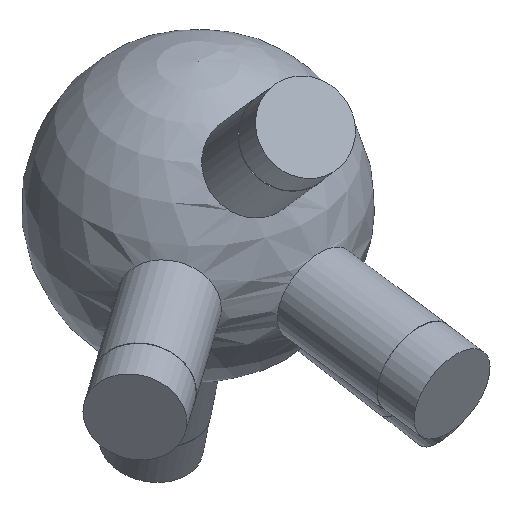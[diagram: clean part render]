
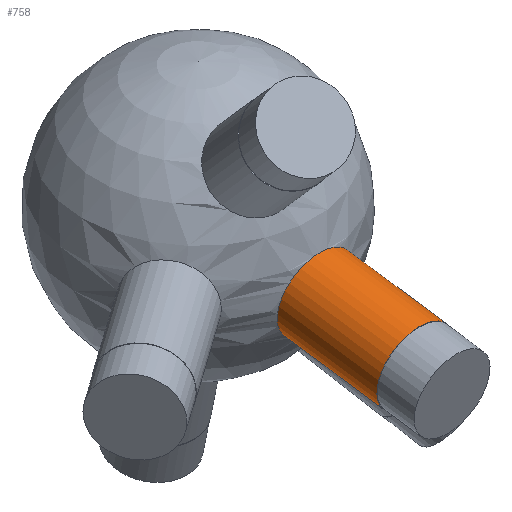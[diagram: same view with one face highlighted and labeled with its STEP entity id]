
A CAD part, isometric view. The second image highlights one B-rep face of the part: STEP entity #758.
In plain terms, the highlighted cylindrical face has radius 6 mm (diameter 12 mm), a full revolution.
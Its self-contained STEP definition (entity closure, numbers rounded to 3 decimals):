
#33 = SPHERICAL_SURFACE('',#34,20.);
#34 = AXIS2_PLACEMENT_3D('',#35,#36,#37);
#35 = CARTESIAN_POINT('',(0.,0.,0.));
#36 = DIRECTION('',(0.,0.,1.));
#37 = DIRECTION('',(1.,0.,-0.));
#402 = EDGE_CURVE('',#403,#403,#405,.T.);
#403 = VERTEX_POINT('',#404);
#404 = CARTESIAN_POINT('',(-0.208,-18.152,
    -8.395));
#405 = SURFACE_CURVE('',#406,(#411,#473),.PCURVE_S1.);
#406 = CIRCLE('',#407,6.);
#407 = AXIS2_PLACEMENT_3D('',#408,#409,#410);
#408 = CARTESIAN_POINT('',(-0.208,-18.92,
    -2.444));
#409 = DIRECTION('',(-0.011,-0.992,-0.128
    ));
#410 = DIRECTION('',(0.,0.128,-0.992)
  );
#411 = PCURVE('',#33,#412);
#412 = DEFINITIONAL_REPRESENTATION('',(#413),#472);
#413 = B_SPLINE_CURVE_WITH_KNOTS('',8,(#414,#415,#416,#417,#418,#419,
    #420,#421,#422,#423,#424,#425,#426,#427,#428,#429,#430,#431,#432,
    #433,#434,#435,#436,#437,#438,#439,#440,#441,#442,#443,#444,#445,
    #446,#447,#448,#449,#450,#451,#452,#453,#454,#455,#456,#457,#458,
    #459,#460,#461,#462,#463,#464,#465,#466,#467,#468,#469,#470,#471),
  .UNSPECIFIED.,.F.,.F.,(9,7,7,7,7,7,7,7,9),(0.,0.785,
    1.473,2.675,3.577,4.254,
    5.268,5.776,6.283),.UNSPECIFIED.);
#414 = CARTESIAN_POINT('',(4.701,-0.433));
#415 = CARTESIAN_POINT('',(4.733,-0.433));
#416 = CARTESIAN_POINT('',(4.766,-0.43));
#417 = CARTESIAN_POINT('',(4.798,-0.422));
#418 = CARTESIAN_POINT('',(4.828,-0.412));
#419 = CARTESIAN_POINT('',(4.857,-0.398));
#420 = CARTESIAN_POINT('',(4.883,-0.381));
#421 = CARTESIAN_POINT('',(4.907,-0.361));
#422 = CARTESIAN_POINT('',(4.946,-0.32));
#423 = CARTESIAN_POINT('',(4.962,-0.299));
#424 = CARTESIAN_POINT('',(4.976,-0.277));
#425 = CARTESIAN_POINT('',(4.988,-0.253));
#426 = CARTESIAN_POINT('',(4.996,-0.229));
#427 = CARTESIAN_POINT('',(5.003,-0.204));
#428 = CARTESIAN_POINT('',(5.007,-0.178));
#429 = CARTESIAN_POINT('',(5.011,-0.107));
#430 = CARTESIAN_POINT('',(5.006,-0.062));
#431 = CARTESIAN_POINT('',(4.994,-0.017));
#432 = CARTESIAN_POINT('',(4.974,0.025));
#433 = CARTESIAN_POINT('',(4.948,0.063));
#434 = CARTESIAN_POINT('',(4.916,0.096));
#435 = CARTESIAN_POINT('',(4.879,0.123));
#436 = CARTESIAN_POINT('',(4.808,0.159));
#437 = CARTESIAN_POINT('',(4.775,0.171));
#438 = CARTESIAN_POINT('',(4.741,0.178));
#439 = CARTESIAN_POINT('',(4.707,0.181));
#440 = CARTESIAN_POINT('',(4.672,0.179));
#441 = CARTESIAN_POINT('',(4.637,0.173));
#442 = CARTESIAN_POINT('',(4.604,0.163));
#443 = CARTESIAN_POINT('',(4.55,0.138));
#444 = CARTESIAN_POINT('',(4.528,0.125));
#445 = CARTESIAN_POINT('',(4.507,0.11));
#446 = CARTESIAN_POINT('',(4.488,0.093));
#447 = CARTESIAN_POINT('',(4.47,0.074));
#448 = CARTESIAN_POINT('',(4.455,0.054));
#449 = CARTESIAN_POINT('',(4.441,0.032));
#450 = CARTESIAN_POINT('',(4.412,-0.024));
#451 = CARTESIAN_POINT('',(4.399,-0.06));
#452 = CARTESIAN_POINT('',(4.391,-0.098));
#453 = CARTESIAN_POINT('',(4.389,-0.137));
#454 = CARTESIAN_POINT('',(4.392,-0.175));
#455 = CARTESIAN_POINT('',(4.4,-0.213));
#456 = CARTESIAN_POINT('',(4.414,-0.249));
#457 = CARTESIAN_POINT('',(4.442,-0.299));
#458 = CARTESIAN_POINT('',(4.453,-0.315));
#459 = CARTESIAN_POINT('',(4.465,-0.331));
#460 = CARTESIAN_POINT('',(4.478,-0.345));
#461 = CARTESIAN_POINT('',(4.493,-0.359));
#462 = CARTESIAN_POINT('',(4.508,-0.371));
#463 = CARTESIAN_POINT('',(4.525,-0.382));
#464 = CARTESIAN_POINT('',(4.56,-0.402));
#465 = CARTESIAN_POINT('',(4.579,-0.411));
#466 = CARTESIAN_POINT('',(4.598,-0.418));
#467 = CARTESIAN_POINT('',(4.618,-0.424));
#468 = CARTESIAN_POINT('',(4.638,-0.429));
#469 = CARTESIAN_POINT('',(4.659,-0.432));
#470 = CARTESIAN_POINT('',(4.68,-0.433));
#471 = CARTESIAN_POINT('',(4.701,-0.433));
#472 = ( GEOMETRIC_REPRESENTATION_CONTEXT(2) 
PARAMETRIC_REPRESENTATION_CONTEXT() REPRESENTATION_CONTEXT('2D SPACE',''
  ) );
#473 = PCURVE('',#474,#479);
#474 = CYLINDRICAL_SURFACE('',#475,6.);
#475 = AXIS2_PLACEMENT_3D('',#476,#477,#478);
#476 = CARTESIAN_POINT('',(0.,0.,0.));
#477 = DIRECTION('',(-0.011,-0.992,-0.128
    ));
#478 = DIRECTION('',(0.,0.128,-0.992)
  );
#479 = DEFINITIONAL_REPRESENTATION('',(#480),#484);
#480 = LINE('',#481,#482);
#481 = CARTESIAN_POINT('',(0.,19.079));
#482 = VECTOR('',#483,1.);
#483 = DIRECTION('',(1.,0.));
#484 = ( GEOMETRIC_REPRESENTATION_CONTEXT(2) 
PARAMETRIC_REPRESENTATION_CONTEXT() REPRESENTATION_CONTEXT('2D SPACE',''
  ) );
#758 = ADVANCED_FACE('',(#759),#474,.T.);
#759 = FACE_BOUND('',#760,.T.);
#760 = EDGE_LOOP('',(#761,#784,#811,#812));
#761 = ORIENTED_EDGE('',*,*,#762,.T.);
#762 = EDGE_CURVE('',#403,#763,#765,.T.);
#763 = VERTEX_POINT('',#764);
#764 = CARTESIAN_POINT('',(-0.385,-34.254,
    -10.475));
#765 = SEAM_CURVE('',#766,(#770,#777),.PCURVE_S1.);
#766 = LINE('',#767,#768);
#767 = CARTESIAN_POINT('',(0.,0.769,
    -5.951));
#768 = VECTOR('',#769,1.);
#769 = DIRECTION('',(-0.011,-0.992,-0.128
    ));
#770 = PCURVE('',#474,#771);
#771 = DEFINITIONAL_REPRESENTATION('',(#772),#776);
#772 = LINE('',#773,#774);
#773 = CARTESIAN_POINT('',(6.283,-0.));
#774 = VECTOR('',#775,1.);
#775 = DIRECTION('',(0.,1.));
#776 = ( GEOMETRIC_REPRESENTATION_CONTEXT(2) 
PARAMETRIC_REPRESENTATION_CONTEXT() REPRESENTATION_CONTEXT('2D SPACE',''
  ) );
#777 = PCURVE('',#474,#778);
#778 = DEFINITIONAL_REPRESENTATION('',(#779),#783);
#779 = LINE('',#780,#781);
#780 = CARTESIAN_POINT('',(0.,-0.));
#781 = VECTOR('',#782,1.);
#782 = DIRECTION('',(0.,1.));
#783 = ( GEOMETRIC_REPRESENTATION_CONTEXT(2) 
PARAMETRIC_REPRESENTATION_CONTEXT() REPRESENTATION_CONTEXT('2D SPACE',''
  ) );
#784 = ORIENTED_EDGE('',*,*,#785,.F.);
#785 = EDGE_CURVE('',#763,#763,#786,.T.);
#786 = SURFACE_CURVE('',#787,(#792,#799),.PCURVE_S1.);
#787 = CIRCLE('',#788,6.);
#788 = AXIS2_PLACEMENT_3D('',#789,#790,#791);
#789 = CARTESIAN_POINT('',(-0.385,-35.023,
    -4.524));
#790 = DIRECTION('',(-0.011,-0.992,-0.128
    ));
#791 = DIRECTION('',(0.,0.128,-0.992)
  );
#792 = PCURVE('',#474,#793);
#793 = DEFINITIONAL_REPRESENTATION('',(#794),#798);
#794 = LINE('',#795,#796);
#795 = CARTESIAN_POINT('',(0.,35.316));
#796 = VECTOR('',#797,1.);
#797 = DIRECTION('',(1.,0.));
#798 = ( GEOMETRIC_REPRESENTATION_CONTEXT(2) 
PARAMETRIC_REPRESENTATION_CONTEXT() REPRESENTATION_CONTEXT('2D SPACE',''
  ) );
#799 = PCURVE('',#800,#805);
#800 = PLANE('',#801);
#801 = AXIS2_PLACEMENT_3D('',#802,#803,#804);
#802 = CARTESIAN_POINT('',(-0.385,-35.023,
    -4.524));
#803 = DIRECTION('',(-0.011,-0.992,-0.128
    ));
#804 = DIRECTION('',(0.,0.128,-0.992)
  );
#805 = DEFINITIONAL_REPRESENTATION('',(#806),#810);
#806 = CIRCLE('',#807,6.);
#807 = AXIS2_PLACEMENT_2D('',#808,#809);
#808 = CARTESIAN_POINT('',(0.,0.));
#809 = DIRECTION('',(1.,0.));
#810 = ( GEOMETRIC_REPRESENTATION_CONTEXT(2) 
PARAMETRIC_REPRESENTATION_CONTEXT() REPRESENTATION_CONTEXT('2D SPACE',''
  ) );
#811 = ORIENTED_EDGE('',*,*,#762,.F.);
#812 = ORIENTED_EDGE('',*,*,#402,.T.);
